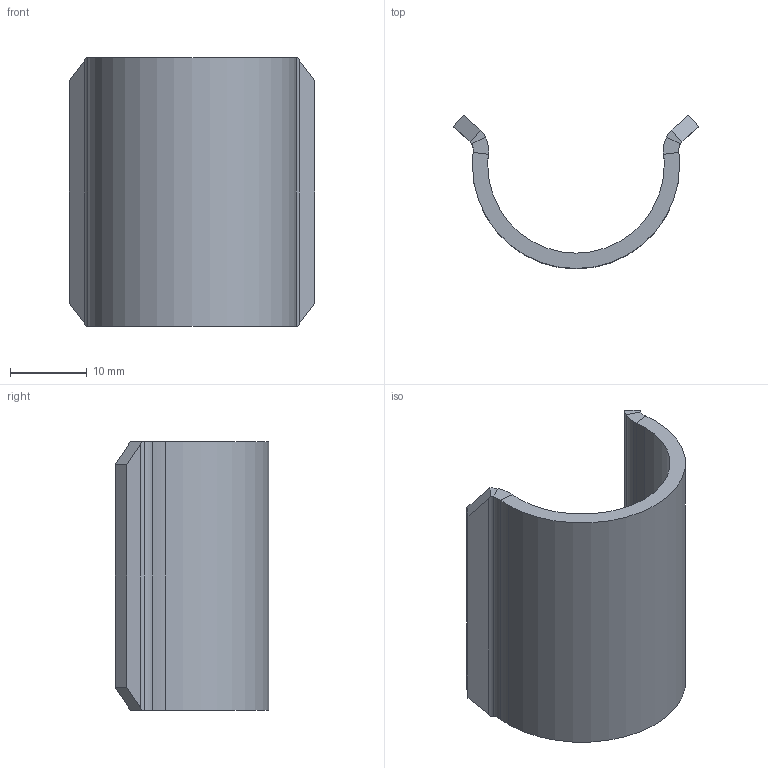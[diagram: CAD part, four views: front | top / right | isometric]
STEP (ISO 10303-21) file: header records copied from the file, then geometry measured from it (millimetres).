
FILE_DESCRIPTION (( 'STEP AP203' ), '1' );
FILE_NAME ('4181_TERZA_LINEA_CARICO_DX_SX_SUPPORTO_U.STEP', '2019-02-20T19:09:34', ( '' ), ( '' ), 'SwSTEP 2.0', 'SolidWorks 2019', '' );
FILE_SCHEMA (( 'CONFIG_CONTROL_DESIGN' ));
Length unit declared in the file: millimetre
Products named in the file (1): 4181_TERZA_LINEA_CARICO_DX_SX_SUPPORTO_U
Bounding box: 32 x 20.01 x 35 mm (x, y, z)
Volume: 3686.6 mm3; surface area: 4025.3 mm2
Topology: 1 solids, 1 shells, 36 faces, 86 edges, 52 vertices
Faces by surface type: plane 20, cylinder 16
Entity records: 1111 total; most frequent: CARTESIAN_POINT 199, DIRECTION 184, ORIENTED_EDGE 172, EDGE_CURVE 86, AXIS2_PLACEMENT_3D 69, VERTEX_POINT 52, LINE 46, VECTOR 46
